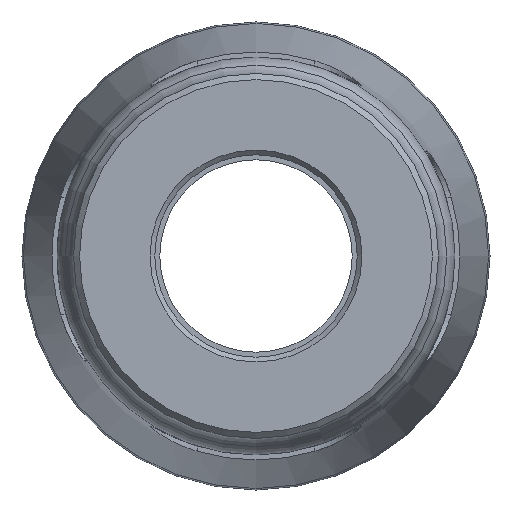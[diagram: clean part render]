
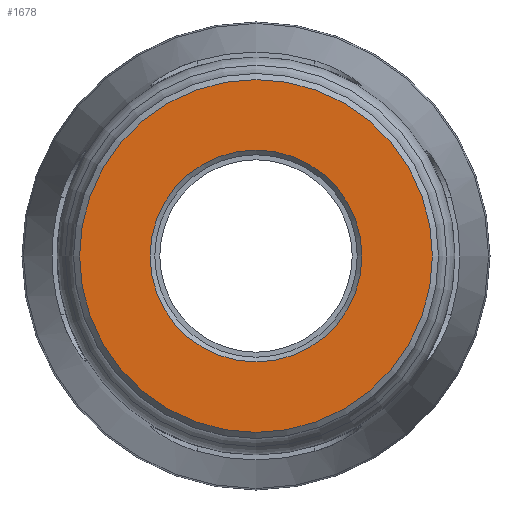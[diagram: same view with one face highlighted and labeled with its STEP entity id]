
A CAD part, left-side view. The second image highlights one B-rep face of the part: STEP entity #1678.
In plain terms, the highlighted planar face has unit normal (-1, 0, 0).
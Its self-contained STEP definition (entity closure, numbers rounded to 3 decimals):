
#23=FACE_BOUND('',#400,.T.);
#55=PLANE('',#1829);
#291=FACE_OUTER_BOUND('',#399,.T.);
#399=EDGE_LOOP('',(#1155));
#400=EDGE_LOOP('',(#1156));
#543=CIRCLE('',#1828,15.846);
#544=CIRCLE('',#1830,26.391);
#714=VERTEX_POINT('',#2896);
#715=VERTEX_POINT('',#2899);
#885=EDGE_CURVE('',#714,#714,#543,.T.);
#886=EDGE_CURVE('',#715,#715,#544,.T.);
#1155=ORIENTED_EDGE('',*,*,#886,.F.);
#1156=ORIENTED_EDGE('',*,*,#885,.F.);
#1678=ADVANCED_FACE('',(#291,#23),#55,.T.);
#1828=AXIS2_PLACEMENT_3D('',#2897,#2109,#2110);
#1829=AXIS2_PLACEMENT_3D('',#2898,#2111,#2112);
#1830=AXIS2_PLACEMENT_3D('',#2900,#2113,#2114);
#2109=DIRECTION('center_axis',(-1.,0.,0.));
#2110=DIRECTION('ref_axis',(0.,-1.,0.));
#2111=DIRECTION('center_axis',(-1.,0.,0.));
#2112=DIRECTION('ref_axis',(0.,0.,1.));
#2113=DIRECTION('center_axis',(1.,0.,0.));
#2114=DIRECTION('ref_axis',(0.,-1.,0.));
#2896=CARTESIAN_POINT('',(0.,15.846,0.));
#2897=CARTESIAN_POINT('Origin',(0.,0.,0.));
#2898=CARTESIAN_POINT('Origin',(0.,27.3,0.));
#2899=CARTESIAN_POINT('',(0.,26.391,0.));
#2900=CARTESIAN_POINT('Origin',(0.,0.,0.));
